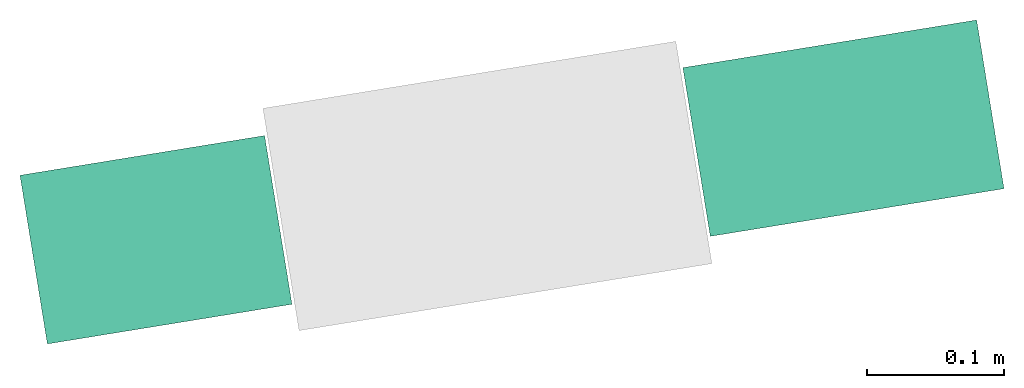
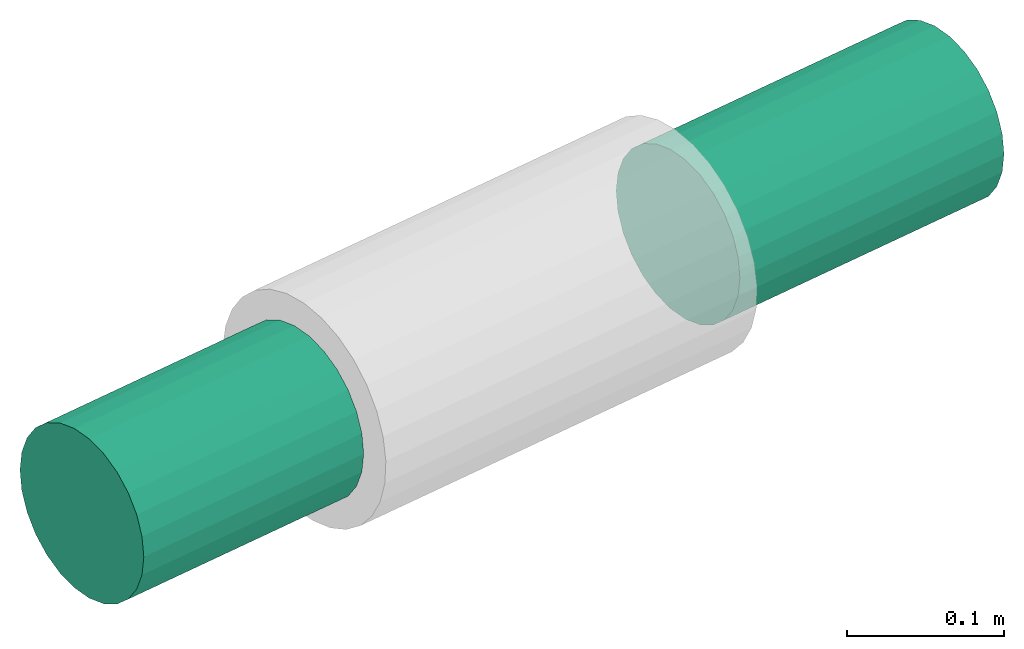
# One storey, part 1 of 2: 2 flow segments.
"""IFC2X3 building model written with IfcOpenShell, lengths in millimetres."""

from ifc_helpers import new_model, entity, si_unit, converted_unit, derived_unit, direction, frame, frame_2d, origin, origin_with_axes, origin_2d_with_axis, place, context, subcontext, project, spatial, circle, extrude, type_object, element, save


model = new_model("IFC2X3")

# Units and contexts
plan_context = context("Plan", 3, precision=1e-05, world=origin_with_axes())
model_context = context("Model", 3, precision=0.01, world=origin(), true_north=direction((6.12323399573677e-17, 1.0)))
body_context = subcontext(model_context, "Body", "Model", "MODEL_VIEW")
ifc_project = project(units=[converted_unit("PLANEANGLEUNIT", "DEGREE", entity("IfcPositiveLengthMeasure", 0.0174532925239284), si_unit("PLANEANGLEUNIT", "RADIAN"), dimensions=[0, 0, 0, 0, 0, 0, 0]), si_unit("AREAUNIT", "SQUARE_METRE"), si_unit("LENGTHUNIT", "METRE", prefix="MILLI"), si_unit("MASSUNIT", "GRAM", prefix="KILO"), si_unit("POWERUNIT", "WATT"), si_unit("PRESSUREUNIT", "PASCAL", prefix="KILO"), si_unit("FORCEUNIT", "NEWTON", prefix="KILO"), si_unit("ELECTRICVOLTAGEUNIT", "VOLT"), si_unit("ELECTRICCURRENTUNIT", "AMPERE"), si_unit("THERMODYNAMICTEMPERATUREUNIT", "DEGREE_CELSIUS"), si_unit("TIMEUNIT", "SECOND"), si_unit("VOLUMEUNIT", "CUBIC_METRE"), derived_unit("LINEARVELOCITYUNIT", [(si_unit("LENGTHUNIT", "METRE"), 1), (si_unit("TIMEUNIT", "SECOND"), -1)]), derived_unit("VOLUMETRICFLOWRATEUNIT", [(si_unit("VOLUMEUNIT", "CUBIC_METRE"), 1), (si_unit("TIMEUNIT", "SECOND"), -1)]), derived_unit("THERMALTRANSMITTANCEUNIT", [(si_unit("POWERUNIT", "WATT"), 1), (si_unit("THERMODYNAMICTEMPERATUREUNIT", "KELVIN"), -1), (si_unit("AREAUNIT", "SQUARE_METRE"), -1)]), derived_unit("SOUNDPRESSUREUNIT", [(si_unit("PRESSUREUNIT", "PASCAL"), 1)])], contexts=[model_context, plan_context])

# Site, building, storey
site_placement = place(None, frame((-0.00071070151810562, 0.00438415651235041, 0.0), z_axis=(0.0, 0.0, 1.0), x_axis=(-0.160236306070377, 0.987078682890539, 0.0)))
site = spatial("IfcSite", under=ifc_project, at=site_placement, Name="Default", CompositionType="ELEMENT")
building_placement = place(site_placement, origin_with_axes())
building = spatial("IfcBuilding", under=site, at=building_placement, CompositionType="ELEMENT")
storey_placement = place(building_placement, frame((0.0, 0.0, 42100.0000000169), z_axis=(0.0, 0.0, 1.0), x_axis=(1.0, 0.0, 0.0)))
storey = spatial("IfcBuildingStorey", under=building, at=storey_placement, Name="Nivå A", CompositionType="ELEMENT", Elevation=42100.0000000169)

# Flow segments
duct_segment_type = type_object("IfcDuctSegmentType", Name="Round Duct:KK001T - Spiro kanaler, Forsinket stål", PredefinedType="NOTDEFINED")
flow_segment_1_placement = place(storey_placement, origin_with_axes())
element("IfcFlowSegment", 1, at=flow_segment_1_placement, inside=storey, type_object=duct_segment_type, Name="Round Duct:KK001T - Spiro kanaler, Forsinket stål", ObjectType="Round Duct:KK001T - Spiro kanaler, Forsinket stål", context=body_context, shape_type="SweptSolid", body=[
    extrude(circle(Radius=62.4999999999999, at=frame_2d((0.0, 8.66293703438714e-12), x_axis=(1.0, 0.0))), frame((768695.275164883, -503279.562392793, 19649.9999999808), z_axis=(-8.98704086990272e-08, 1.0, 0.0), x_axis=(-1.0, -8.98704086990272e-08, 0.0)), (0.0, 0.0, 1.0), 181.252456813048),
])
flow_segment_2_placement = place(storey_placement, origin_with_axes())
element("IfcFlowSegment", 2, at=flow_segment_2_placement, inside=storey, type_object=duct_segment_type, Name="Round Duct:KK001T - Spiro kanaler, Forsinket stål", ObjectType="Round Duct:KK001T - Spiro kanaler, Forsinket stål", context=body_context, shape_type="SweptSolid", body=[
    extrude(circle(Radius=62.4999999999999, at=origin_2d_with_axis()), frame((768695.275143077, -503807.229552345, 19649.9999999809), z_axis=(3.0806979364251e-08, 1.0, 0.0), x_axis=(1.0, -3.0806979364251e-08, 0.0)), (0.0, 0.0, 1.0), 217.667159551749),
])

save(model, "model.ifc")
